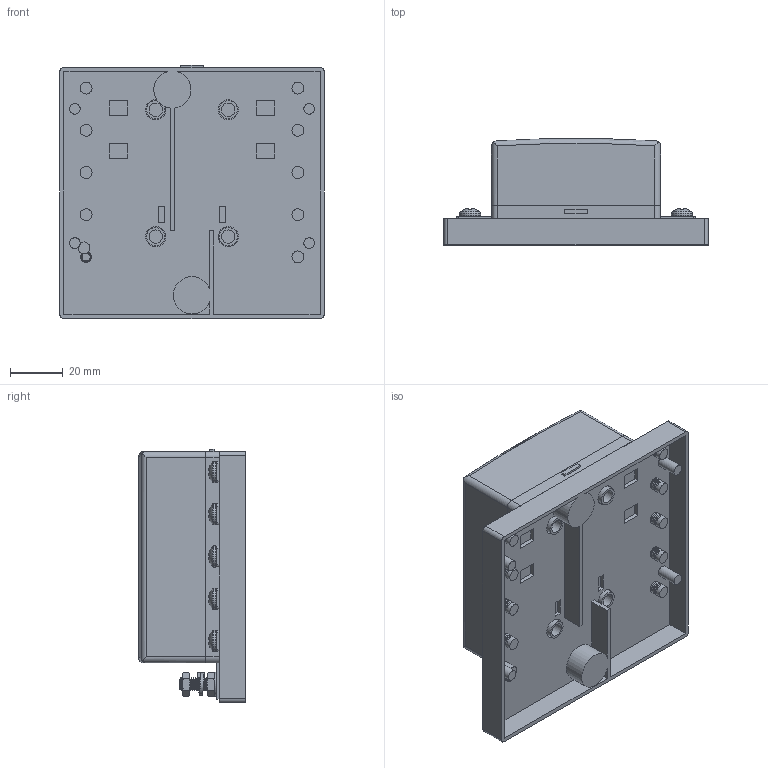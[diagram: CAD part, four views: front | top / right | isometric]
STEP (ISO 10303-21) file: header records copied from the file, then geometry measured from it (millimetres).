
FILE_DESCRIPTION(/* description */ (''),/* implementation_level */ '2;1');
FILE_NAME(/* name */ 'C:\Users\Hani\Desktop\work\BLR-I-510\BLR-I-510.stp',/* time_stamp */ '2021-07-07T15:42:59-07:00',/* author */ ('Hani'),/* organization */ (''),/* preprocessor_version */ 'ST-DEVELOPER v17',/* originating_system */ 'Autodesk Inventor 2019',/* authorisation */ '');
FILE_SCHEMA (('AUTOMOTIVE_DESIGN { 1 0 10303 214 3 1 1 }'));
Length unit declared in the file: inch
Products named in the file (12): BLR-I-510; BLC-106-G; BLR-I-510-BLOCK; plate2; STUD; WASHER; LOCK WASHER; plate3; plate3_MIR1; M4 PHILLIPS MACHINE SCREW; cover; HEX NUT
Assembly tree (29 placements, depth 2):
  BLR-I-510
    BLC-106-G
    BLR-I-510-BLOCK
    plate2
    STUD
    WASHER
    LOCK WASHER
    HEX NUT  x2
    plate3  x5
    plate3_MIR1  x5
    M4 PHILLIPS MACHINE SCREW  x10
    cover
Bounding box: 100.08 x 40.28 x 95.76 mm (x, y, z)
Volume: 113742.6 mm3; surface area: 82514.1 mm2
Topology: 29 solids, 29 shells, 1604 faces, 4329 edges, 2884 vertices
Faces by surface type: plane 854, cylinder 345, bspline 222, cone 124, torus 39, sphere 20
Full cylindrical faces by diameter (mm): 3.091 x70, 3.454 x10, 3.769 x16, 3.795 x2, 4 x70, 4.064 x4, 4.5 x19, 4.801 x17, 4.826 x6, 4.953 x1, 5.08 x5, 6.858 x4, 7.62 x4, 8 x10, 8.992 x1, 9.779 x4
Entity records: 40258 total; most frequent: CARTESIAN_POINT 14667, ORIENTED_EDGE 5600, DIRECTION 4438, EDGE_CURVE 2800, VERTEX_POINT 1860, LINE 1828, VECTOR 1828, AXIS2_PLACEMENT_3D 1305
